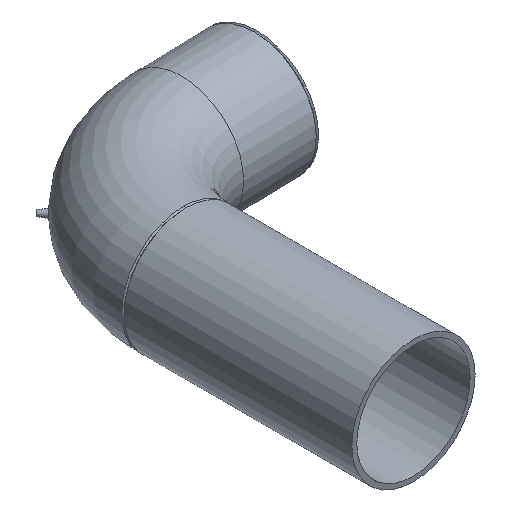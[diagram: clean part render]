
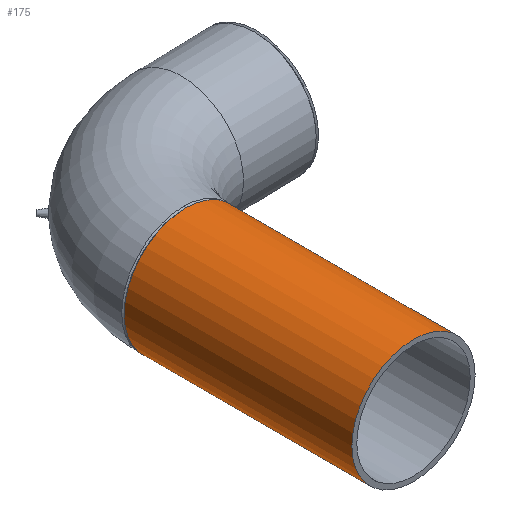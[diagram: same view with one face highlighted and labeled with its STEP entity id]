
A CAD part, isometric view. The second image highlights one B-rep face of the part: STEP entity #175.
In plain terms, the highlighted cylindrical face has radius 37.5 mm (diameter 75 mm), a full revolution.
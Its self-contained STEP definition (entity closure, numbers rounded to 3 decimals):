
#23=CYLINDRICAL_SURFACE($,#206,37.5);
#36=FACE_BOUND($,#79,.T.);
#53=FACE_OUTER_BOUND($,#78,.T.);
#78=EDGE_LOOP($,(#152));
#79=EDGE_LOOP($,(#153));
#88=CIRCLE($,#188,37.5);
#97=CIRCLE($,#207,37.5);
#102=VERTEX_POINT($,#282);
#112=VERTEX_POINT($,#349);
#117=EDGE_CURVE($,#102,#102,#88,.T.);
#127=EDGE_CURVE($,#112,#112,#97,.T.);
#152=ORIENTED_EDGE($,*,*,#117,.T.);
#153=ORIENTED_EDGE($,*,*,#127,.F.);
#175=ADVANCED_FACE($,(#53,#36),#23,.T.);
#188=AXIS2_PLACEMENT_3D($,#283,#226,#227);
#206=AXIS2_PLACEMENT_3D($,#348,#262,#263);
#207=AXIS2_PLACEMENT_3D($,#350,#264,#265);
#226=DIRECTION('center_axis',(0.,-1.,0.));
#227=DIRECTION('ref_axis',(1.,0.,0.));
#262=DIRECTION('center_axis',(0.,1.,0.));
#263=DIRECTION('ref_axis',(1.,0.,0.));
#264=DIRECTION('center_axis',(0.,-1.,0.));
#265=DIRECTION('ref_axis',(1.,0.,0.));
#282=CARTESIAN_POINT('',(-37.5,138.5,0.));
#283=CARTESIAN_POINT('Origin',(0.,138.5,0.));
#348=CARTESIAN_POINT('Origin',(0.,0.,0.));
#349=CARTESIAN_POINT('',(-37.5,0.,0.));
#350=CARTESIAN_POINT('Origin',(0.,0.,0.));
